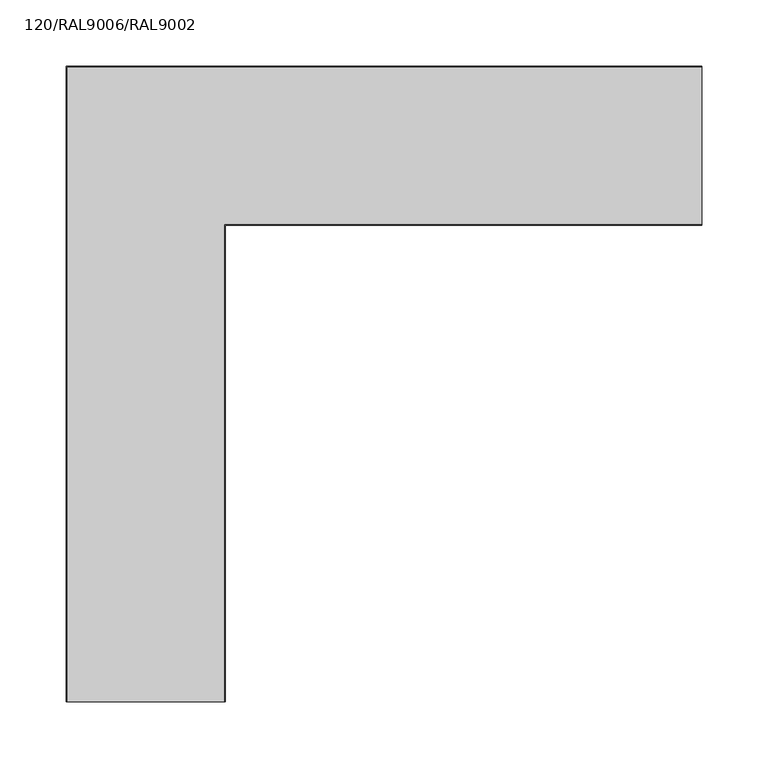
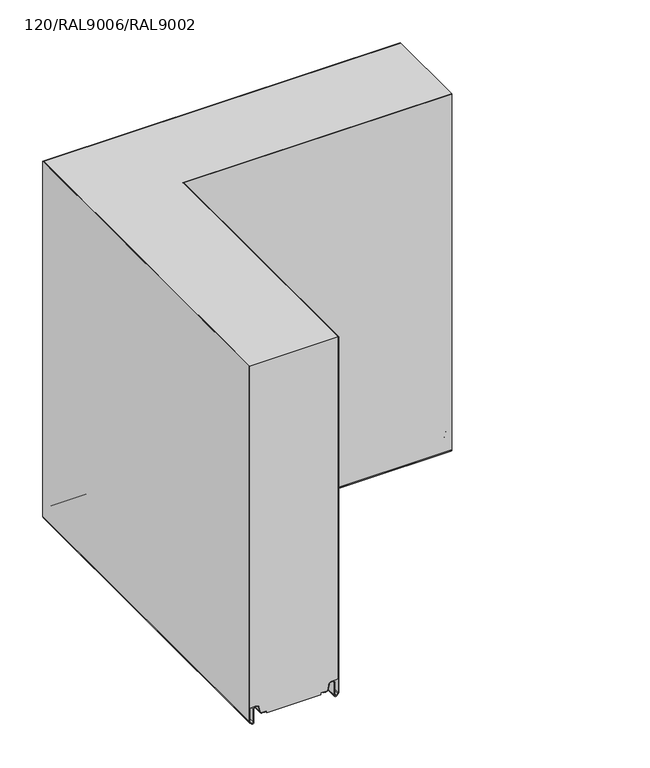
"""IFC4 building model written with IfcOpenShell, lengths in millimetres: plate geometry, TR_C_H_FTV_Corner_Tr_B_cut_GROOVE : 120/RAL9006/RAL9002."""

from ifc_helpers import new_model, si_unit, frame, origin, place, context, project, spatial, polyline, circle_curve, ellipse_curve, source, transform, mapped, element, save
from ifc_brep_helpers import plane_surface, cylinder_surface, revolved_surface, advanced_brep


def plate_120_ral9006_ral9002_2f89b07f(model_context):
    return source(origin(), model_context, "Body", "AdvancedBrep", [
        advanced_brep(
        [(240.0, -119.2, 14.4000012), (240.0, -110.55, 14.4000012), (240.0, -106.364567, 10.8880059), (240.0, -105.2977418, 4.837739), (240.0, -102.3925589, 2.4000012), (240.0, -96.3, 2.4000012), (240.0, -96.3, 0.0), (240.0, -23.7, 0.0), (240.0, -23.7, 2.4000012), (240.0, -17.6074411, 2.4000012), (240.0, -14.7022582, 4.837739), (240.0, -13.635433, 10.8880059), (240.0, -9.45, 14.4000012), (240.0, -0.8, 14.4000012), (240.0, -0.8, 500.0), (240.0, -119.2, 500.0), (-120.8, -119.2, 14.4000012), (-120.8, -480.0, 14.4000012), (-129.45, -480.0, 14.4000012), (-129.45, -110.55, 14.4000012), (-133.635433, -106.364567, 10.8880059), (-134.7022582, -105.2977418, 4.837739), (-137.6074411, -102.3925589, 2.4000012), (-137.6074411, -480.0, 2.4000012), (-143.7, -480.0, 2.4000012), (-143.7, -96.3, 2.4000012), (-143.7, -96.3, 0.0), (-143.7, -480.0, 0.0), (-216.3, -480.0, 0.0), (-216.3, -23.7, 0.0), (-216.3, -23.7, 2.4000012), (-216.3, -480.0, 2.4000012), (-222.3925589, -480.0, 2.4000012), (-222.3925589, -17.6074411, 2.4000012), (-225.2977418, -14.7022582, 4.837739), (-226.364567, -13.635433, 10.8880059), (-230.55, -9.45, 14.4000012), (-230.55, -480.0, 14.4000012), (-239.2, -480.0, 14.4000012), (-239.2, -0.8, 14.4000012), (-120.8, -480.0, 500.0), (-239.2, -480.0, 500.0), (-226.364567, -480.0, 10.8880059), (-225.2977418, -480.0, 4.837739), (-134.7022582, -480.0, 4.837739), (-133.635433, -480.0, 10.8880059), (-239.2, -0.8, 500.0), (-120.8, -119.2, 500.0)],
        [
            (0, 1),
            (1, 2, circle_curve(frame((240.0, -110.55, 10.1500012), z_axis=(-1.0, 0.0, 0.0), x_axis=(0.0, -1.0, 0.0)), 4.25)),
            (2, 3),
            (3, 4, circle_curve(frame((240.0, -102.3925589, 5.3500012), z_axis=(1.0, 0.0, 0.0), x_axis=(0.0, -1.0, 0.0)), 2.95)),
            (4, 5),
            (5, 6),
            (6, 7),
            (7, 8),
            (8, 9),
            (9, 10, circle_curve(frame((240.0, -17.6074411, 5.3500012), z_axis=(1.0, 0.0, 0.0), x_axis=(0.0, -1.0, 0.0)), 2.95)),
            (10, 11),
            (11, 12, circle_curve(frame((240.0, -9.45, 10.1500012), z_axis=(-1.0, 0.0, 0.0), x_axis=(0.0, -1.0, 0.0)), 4.25)),
            (12, 13),
            (13, 14),
            (14, 15),
            (15, 0),
            (0, 16),
            (16, 17),
            (17, 18),
            (18, 19),
            (19, 1),
            (19, 20, ellipse_curve(frame((-129.45, -110.55, 10.1500012), z_axis=(-0.7071067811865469, -0.7071067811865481, 0.0), x_axis=(-0.7071067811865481, 0.7071067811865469, 0.0)), 6.0104076, 4.25)),
            (20, 2),
            (20, 21),
            (21, 3),
            (21, 22, ellipse_curve(frame((-137.6074411, -102.3925589, 5.3500012), z_axis=(0.7071067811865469, 0.7071067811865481, 0.0), x_axis=(0.7071067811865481, -0.7071067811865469, 0.0)), 4.17193, 2.95)),
            (22, 4),
            (22, 23),
            (23, 24),
            (24, 25),
            (25, 5),
            (25, 26),
            (26, 6),
            (26, 27),
            (27, 28),
            (28, 29),
            (29, 7),
            (29, 30),
            (30, 8),
            (30, 31),
            (31, 32),
            (32, 33),
            (33, 9),
            (33, 34, ellipse_curve(frame((-222.3925589, -17.6074411, 5.3500012), z_axis=(0.7071067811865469, 0.7071067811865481, 0.0), x_axis=(0.7071067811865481, -0.7071067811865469, 0.0)), 4.17193, 2.95)),
            (34, 10),
            (34, 35),
            (35, 11),
            (35, 36, ellipse_curve(frame((-230.55, -9.45, 10.1500012), z_axis=(-0.7071067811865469, -0.7071067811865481, 0.0), x_axis=(-0.7071067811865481, 0.7071067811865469, 0.0)), 6.0104076, 4.25)),
            (36, 12),
            (36, 37),
            (37, 38),
            (38, 39),
            (39, 13),
            (17, 40),
            (40, 41),
            (41, 38),
            (37, 42, circle_curve(frame((-230.55, -480.0, 10.1500012), z_axis=(0.0, 1.0, 0.0), x_axis=(1.0, 0.0, 0.0)), 4.25)),
            (42, 43),
            (43, 32, circle_curve(frame((-222.3925589, -480.0, 5.3500012), z_axis=(0.0, -1.0, 0.0), x_axis=(1.0, 0.0, 0.0)), 2.95)),
            (31, 28),
            (27, 24),
            (23, 44, circle_curve(frame((-137.6074411, -480.0, 5.3500012), z_axis=(0.0, -1.0, 0.0), x_axis=(1.0, 0.0, 0.0)), 2.95)),
            (44, 45),
            (45, 18, circle_curve(frame((-129.45, -480.0, 10.1500012), z_axis=(0.0, 1.0, 0.0), x_axis=(1.0, 0.0, 0.0)), 4.25)),
            (45, 20),
            (44, 21),
            (43, 34),
            (42, 35),
            (39, 46),
            (46, 14),
            (15, 47),
            (47, 16),
            (41, 46),
            (47, 40),
        ],
        [
            plane_surface(frame((240.0, 0.0, 0.0), z_axis=(1.0, 0.0, 0.0), x_axis=(0.0, 0.0, 1.0))),
            plane_surface(frame((240.0, -119.2, 14.4000012), z_axis=(0.0, 0.0, -1.0), x_axis=(-1.0, 0.0, 0.0))),
            revolved_surface(polyline([(-133.69999997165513, -114.8, 10.1500012), (240.0, -114.8, 10.1500012)]), (240.0, -110.55, 10.1500012), (-1.0, 0.0, 0.0)),
            plane_surface(frame((240.0, -106.364567, 10.8880059), z_axis=(0.0, -0.9848077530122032, -0.17364817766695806), x_axis=(-1.0, 0.0, 0.0))),
            cylinder_surface(frame((240.0, -102.3925589, 5.3500012), z_axis=(1.0, 0.0, 0.0), x_axis=(0.0, -1.0, 0.0)), 2.95),
            plane_surface(frame((240.0, -102.3925589, 2.4000012), z_axis=(0.0, 0.0, -1.0), x_axis=(-1.0, 0.0, 0.0))),
            plane_surface(frame((240.0, -96.3, 2.4000012), z_axis=(0.0, -1.0, 0.0), x_axis=(-1.0, 0.0, 0.0))),
            plane_surface(frame((240.0, -96.3, 0.0), z_axis=(0.0, 0.0, -1.0), x_axis=(-1.0, 0.0, 0.0))),
            plane_surface(frame((240.0, -23.7, 0.0), z_axis=(0.0, 1.0, 0.0), x_axis=(-1.0, 0.0, 0.0))),
            plane_surface(frame((240.0, -23.7, 2.4000012), z_axis=(0.0, 0.0, -1.0), x_axis=(-1.0, 0.0, 0.0))),
            cylinder_surface(frame((240.0, -17.6074411, 5.3500012), z_axis=(1.0, 0.0, 0.0), x_axis=(0.0, -1.0, 0.0)), 2.95),
            plane_surface(frame((240.0, -14.7022582, 4.837739), z_axis=(0.0, 0.9848077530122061, -0.17364817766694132), x_axis=(-1.0, 0.0, 0.0))),
            revolved_surface(polyline([(-234.79999997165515, -13.7, 10.1500012), (240.0, -13.7, 10.1500012)]), (240.0, -9.45, 10.1500012), (-1.0, 0.0, 0.0)),
            plane_surface(frame((240.0, -9.45, 14.4000012), z_axis=(0.0, 0.0, -1.0), x_axis=(-1.0, 0.0, 0.0))),
            plane_surface(frame((-240.0, -480.0, 0.0), z_axis=(0.0, -1.0, 0.0), x_axis=(0.0, 0.0, 1.0))),
            revolved_surface(polyline([(-125.19999999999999, -480.0, 10.1500012), (-125.19999999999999, -106.30000002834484, 10.1500012)]), (-129.45, 0.0, 10.1500012), (0.0, -1.0, 0.0)),
            plane_surface(frame((-133.635433, -106.364567, 10.8880059), z_axis=(0.9848077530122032, 0.0, -0.17364817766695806), x_axis=(0.0, -1.0, 0.0))),
            cylinder_surface(frame((-137.6074411, 0.0, 5.3500012), z_axis=(0.0, 1.0, 0.0), x_axis=(1.0, 0.0, 0.0)), 2.95),
            plane_surface(frame((-143.7, -96.3, 2.4000012), z_axis=(1.0, 0.0, 0.0), x_axis=(0.0, -1.0, 0.0))),
            plane_surface(frame((-216.3, -23.7, 0.0), z_axis=(-1.0, 0.0, 0.0), x_axis=(0.0, -1.0, 0.0))),
            cylinder_surface(frame((-222.3925589, 0.0, 5.3500012), z_axis=(0.0, 1.0, 0.0), x_axis=(1.0, 0.0, 0.0)), 2.95),
            plane_surface(frame((-225.2977418, -14.7022582, 4.837739), z_axis=(-0.9848077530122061, 0.0, -0.17364817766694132), x_axis=(0.0, -1.0, 0.0))),
            revolved_surface(polyline([(-226.3, -480.0, 10.1500012), (-226.3, -5.200000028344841, 10.1500012)]), (-230.55, 0.0, 10.1500012), (0.0, -1.0, 0.0)),
            plane_surface(frame((240.0, -0.8, 14.4000012), z_axis=(0.0, 1.0, 0.0), x_axis=(-1.0, 0.0, 0.0))),
            plane_surface(frame((240.0, -119.2, 984.3218254), z_axis=(0.0, -1.0, 0.0), x_axis=(-1.0, 0.0, 0.0))),
            plane_surface(frame((-239.2, -0.8, 14.4000012), z_axis=(-1.0, 0.0, 0.0), x_axis=(0.0, -1.0, 0.0))),
            plane_surface(frame((-120.8, -119.2, 984.3218254), z_axis=(1.0, 0.0, 0.0), x_axis=(0.0, -1.0, 0.0))),
            plane_surface(frame((240.0, -120.0, 500.0), z_axis=(0.0, 0.0, 1.0), x_axis=(-1.0, 0.0, 0.0))),
        ],
        [
            (0, [[1, 2, 3, 4, 5, 6, 7, 8, 9, 10, 11, 12, 13, 14, 15, 16]]),
            (1, [[-1, 17, 18, 19, 20, 21]]),
            (2, [[-2, -21, 22, 23]]),
            (3, [[-3, -23, 24, 25]]),
            (4, [[-4, -25, 26, 27]]),
            (5, [[-5, -27, 28, 29, 30, 31]]),
            (6, [[-6, -31, 32, 33]]),
            (7, [[-7, -33, 34, 35, 36, 37]]),
            (8, [[-8, -37, 38, 39]]),
            (9, [[-9, -39, 40, 41, 42, 43]]),
            (10, [[-10, -43, 44, 45]]),
            (11, [[-11, -45, 46, 47]]),
            (12, [[-12, -47, 48, 49]]),
            (13, [[-13, -49, 50, 51, 52, 53]]),
            (14, [[-19, 54, 55, 56, -51, 57, 58, 59, -41, 60, -35, 61, -29, 62, 63, 64]]),
            (15, [[-20, -64, 65, -22]]),
            (16, [[-24, -65, -63, 66]]),
            (17, [[-26, -66, -62, -28]]),
            (18, [[-30, -61, -34, -32]]),
            (19, [[-36, -60, -40, -38]]),
            (20, [[-42, -59, 67, -44]]),
            (21, [[-46, -67, -58, 68]]),
            (22, [[-48, -68, -57, -50]]),
            (23, [[-53, 69, 70, -14]]),
            (24, [[-17, -16, 71, 72]]),
            (25, [[-52, -56, 73, -69]]),
            (26, [[-18, -72, 74, -54]]),
            (27, [[-15, -70, -73, -55, -74, -71]]),
        ],
    ),
        advanced_brep(
        [(240.0, -0.8, -5.018628), (240.0, -1.3711418, -6.3974862), (240.0, -3.2368272, -8.2631716), (240.0, -5.2, -7.4499988), (240.0, -5.2, 10.1500012), (240.0, -13.635433, 10.8880059), (240.0, -14.7022582, 4.837739), (240.0, -17.6074411, 2.4000012), (240.0, -21.0, 2.4000012), (240.0, -21.0, 1.6000012), (240.0, -17.6074411, 1.6000012), (240.0, -13.914412, 4.6988205), (240.0, -12.8475867, 10.7490874), (240.0, -6.0, 10.1500012), (240.0, -6.0, -7.4499988), (240.0, -2.6711418, -8.8288571), (240.0, -0.8054564, -6.9631716), (240.0, 0.0, -5.018628), (240.0, 0.0, 500.0), (240.0, -0.8, 500.0), (-239.2, -0.8, -5.018628), (-238.6288582, -1.3711418, -6.3974862), (-236.7631728, -3.2368272, -8.2631716), (-234.8, -5.2, -7.4499988), (-234.8, -5.2, 10.1500012), (-226.364567, -13.635433, 10.8880059), (-225.2977418, -14.7022582, 4.837739), (-222.3925589, -17.6074411, 2.4000012), (-222.3925589, -480.0, 2.4000012), (-219.0, -480.0, 2.4000012), (-219.0, -21.0, 2.4000012), (-219.0, -21.0, 1.6000012), (-219.0, -480.0, 1.6000012), (-222.3925589, -480.0, 1.6000012), (-222.3925589, -17.6074411, 1.6000012), (-226.085588, -13.914412, 4.6988205), (-227.1524133, -12.8475867, 10.7490874), (-234.0, -6.0, 10.1500012), (-234.0, -6.0, -7.4499988), (-237.3288582, -2.6711418, -8.8288571), (-239.1945436, -0.8054564, -6.9631716), (-240.0, 0.0, -5.018628), (-225.2977418, -480.0, 4.837739), (-226.364567, -480.0, 10.8880059), (-234.8, -480.0, 10.1500012), (-234.8, -480.0, -7.4499988), (-236.7631728, -480.0, -8.2631716), (-238.6288582, -480.0, -6.3974862), (-239.2, -480.0, -5.018628), (-239.2, -480.0, 500.0), (-240.0, -480.0, 500.0), (-240.0, -480.0, -5.018628), (-239.1945436, -480.0, -6.9631716), (-237.3288582, -480.0, -8.8288571), (-234.0, -480.0, -7.4499988), (-234.0, -480.0, 10.1500012), (-227.1524133, -480.0, 10.7490874), (-226.085588, -480.0, 4.6988205), (-240.0, 0.0, 500.0), (-239.2, -0.8, 500.0)],
        [
            (0, 1, circle_curve(frame((240.0, -2.75, -5.018628), z_axis=(-1.0, 0.0, 0.0), x_axis=(0.0, -1.0, 0.0)), 1.95)),
            (1, 2),
            (2, 3, circle_curve(frame((240.0, -4.05, -7.4499988), z_axis=(-1.0, 0.0, 0.0), x_axis=(0.0, -1.0, 0.0)), 1.15)),
            (3, 4),
            (4, 5, circle_curve(frame((240.0, -9.45, 10.1500012), z_axis=(1.0, 0.0, 0.0), x_axis=(0.0, -1.0, 0.0)), 4.25)),
            (5, 6),
            (6, 7, circle_curve(frame((240.0, -17.6074411, 5.3500012), z_axis=(-1.0, 0.0, 0.0), x_axis=(0.0, -1.0, 0.0)), 2.95)),
            (7, 8),
            (8, 9),
            (9, 10),
            (10, 11, circle_curve(frame((240.0, -17.6074411, 5.3500012), z_axis=(1.0, 0.0, 0.0), x_axis=(0.0, -1.0, 0.0)), 3.75)),
            (11, 12),
            (12, 13, circle_curve(frame((240.0, -9.45, 10.1500012), z_axis=(-1.0, 0.0, 0.0), x_axis=(0.0, -1.0, 0.0)), 3.45)),
            (13, 14),
            (14, 15, circle_curve(frame((240.0, -4.05, -7.4499988), z_axis=(1.0, 0.0, 0.0), x_axis=(0.0, -1.0, 0.0)), 1.95)),
            (15, 16),
            (16, 17, circle_curve(frame((240.0, -2.75, -5.018628), z_axis=(1.0, 0.0, 0.0), x_axis=(0.0, -1.0, 0.0)), 2.75)),
            (17, 18),
            (18, 19),
            (19, 0),
            (0, 20),
            (20, 21, ellipse_curve(frame((-237.25, -2.75, -5.018628), z_axis=(-0.7071067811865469, -0.7071067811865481, 0.0), x_axis=(-0.7071067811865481, 0.7071067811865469, 0.0)), 2.7577164, 1.95)),
            (21, 1),
            (21, 22),
            (22, 2),
            (22, 23, ellipse_curve(frame((-235.95, -4.05, -7.4499988), z_axis=(-0.7071067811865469, -0.7071067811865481, 0.0), x_axis=(-0.7071067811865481, 0.7071067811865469, 0.0)), 1.6263456, 1.15)),
            (23, 3),
            (23, 24),
            (24, 4),
            (24, 25, ellipse_curve(frame((-230.55, -9.45, 10.1500012), z_axis=(0.7071067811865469, 0.7071067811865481, 0.0), x_axis=(0.7071067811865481, -0.7071067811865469, 0.0)), 6.0104076, 4.25)),
            (25, 5),
            (25, 26),
            (26, 6),
            (26, 27, ellipse_curve(frame((-222.3925589, -17.6074411, 5.3500012), z_axis=(-0.7071067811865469, -0.7071067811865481, 0.0), x_axis=(-0.7071067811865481, 0.7071067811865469, 0.0)), 4.17193, 2.95)),
            (27, 7),
            (27, 28),
            (28, 29),
            (29, 30),
            (30, 8),
            (30, 31),
            (31, 9),
            (31, 32),
            (32, 33),
            (33, 34),
            (34, 10),
            (34, 35, ellipse_curve(frame((-222.3925589, -17.6074411, 5.3500012), z_axis=(0.7071067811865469, 0.7071067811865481, 0.0), x_axis=(0.7071067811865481, -0.7071067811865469, 0.0)), 5.3033009, 3.75)),
            (35, 11),
            (35, 36),
            (36, 12),
            (36, 37, ellipse_curve(frame((-230.55, -9.45, 10.1500012), z_axis=(-0.7071067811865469, -0.7071067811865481, 0.0), x_axis=(-0.7071067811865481, 0.7071067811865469, 0.0)), 4.8790368, 3.45)),
            (37, 13),
            (37, 38),
            (38, 14),
            (38, 39, ellipse_curve(frame((-235.95, -4.05, -7.4499988), z_axis=(0.7071067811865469, 0.7071067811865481, 0.0), x_axis=(0.7071067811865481, -0.7071067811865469, 0.0)), 2.7577164, 1.95)),
            (39, 15),
            (39, 40),
            (40, 16),
            (40, 41, ellipse_curve(frame((-237.25, -2.75, -5.018628), z_axis=(0.7071067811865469, 0.7071067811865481, 0.0), x_axis=(0.7071067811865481, -0.7071067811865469, 0.0)), 3.8890873, 2.75)),
            (41, 17),
            (28, 42, circle_curve(frame((-222.3925589, -480.0, 5.3500012), z_axis=(0.0, 1.0, 0.0), x_axis=(1.0, 0.0, 0.0)), 2.95)),
            (42, 43),
            (43, 44, circle_curve(frame((-230.55, -480.0, 10.1500012), z_axis=(0.0, -1.0, 0.0), x_axis=(1.0, 0.0, 0.0)), 4.25)),
            (44, 45),
            (45, 46, circle_curve(frame((-235.95, -480.0, -7.4499988), z_axis=(0.0, 1.0, 0.0), x_axis=(1.0, 0.0, 0.0)), 1.15)),
            (46, 47),
            (47, 48, circle_curve(frame((-237.25, -480.0, -5.018628), z_axis=(0.0, 1.0, 0.0), x_axis=(1.0, 0.0, 0.0)), 1.95)),
            (48, 49),
            (49, 50),
            (50, 51),
            (51, 52, circle_curve(frame((-237.25, -480.0, -5.018628), z_axis=(0.0, -1.0, 0.0), x_axis=(1.0, 0.0, 0.0)), 2.75)),
            (52, 53),
            (53, 54, circle_curve(frame((-235.95, -480.0, -7.4499988), z_axis=(0.0, -1.0, 0.0), x_axis=(1.0, 0.0, 0.0)), 1.95)),
            (54, 55),
            (55, 56, circle_curve(frame((-230.55, -480.0, 10.1500012), z_axis=(0.0, 1.0, 0.0), x_axis=(1.0, 0.0, 0.0)), 3.45)),
            (56, 57),
            (57, 33, circle_curve(frame((-222.3925589, -480.0, 5.3500012), z_axis=(0.0, -1.0, 0.0), x_axis=(1.0, 0.0, 0.0)), 3.75)),
            (32, 29),
            (20, 48),
            (47, 21),
            (46, 22),
            (45, 23),
            (44, 24),
            (43, 25),
            (42, 26),
            (57, 35),
            (56, 36),
            (55, 37),
            (54, 38),
            (53, 39),
            (52, 40),
            (51, 41),
            (41, 58),
            (58, 18),
            (19, 59),
            (59, 20),
            (50, 58),
            (59, 49),
        ],
        [
            plane_surface(frame((240.0, 0.0, 0.0), z_axis=(1.0, 0.0, 0.0), x_axis=(0.0, 0.0, 1.0))),
            revolved_surface(polyline([(-239.2, -4.7, -5.018628), (240.0, -4.7, -5.018628)]), (240.0, -2.75, -5.018628), (-1.0, 0.0, 0.0)),
            plane_surface(frame((240.0, -1.3711418, -6.3974862), z_axis=(0.0, -0.7071067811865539, 0.7071067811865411), x_axis=(-1.0, 0.0, 0.0))),
            revolved_surface(polyline([(-237.10000000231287, -5.199999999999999, -7.4499988), (240.0, -5.199999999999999, -7.4499988)]), (240.0, -4.05, -7.4499988), (-1.0, 0.0, 0.0)),
            plane_surface(frame((240.0, -5.2, -7.4499988), z_axis=(0.0, 1.0, 0.0), x_axis=(-1.0, 0.0, 0.0))),
            cylinder_surface(frame((240.0, -9.45, 10.1500012), z_axis=(1.0, 0.0, 0.0), x_axis=(0.0, -1.0, 0.0)), 4.25),
            plane_surface(frame((240.0, -13.635433, 10.8880059), z_axis=(0.0, -0.9848077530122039, 0.17364817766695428), x_axis=(-1.0, 0.0, 0.0))),
            revolved_surface(polyline([(-225.3425588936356, -20.5574411, 5.3500012), (240.0, -20.5574411, 5.3500012)]), (240.0, -17.6074411, 5.3500012), (-1.0, 0.0, 0.0)),
            plane_surface(frame((240.0, -17.6074411, 2.4000012), z_axis=(0.0, 0.0, 1.0), x_axis=(-1.0, 0.0, 0.0))),
            plane_surface(frame((240.0, -21.0, 2.4000012), z_axis=(0.0, -1.0, 0.0), x_axis=(-1.0, 0.0, 0.0))),
            plane_surface(frame((240.0, -21.0, 1.6000012), z_axis=(0.0, 0.0, -1.0), x_axis=(-1.0, 0.0, 0.0))),
            cylinder_surface(frame((240.0, -17.6074411, 5.3500012), z_axis=(1.0, 0.0, 0.0), x_axis=(0.0, -1.0, 0.0)), 3.75),
            plane_surface(frame((240.0, -13.914412, 4.6988205), z_axis=(0.0, 0.9848077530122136, -0.17364817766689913), x_axis=(-1.0, 0.0, 0.0))),
            revolved_surface(polyline([(-234.0000000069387, -12.899999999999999, 10.1500012), (240.0, -12.899999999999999, 10.1500012)]), (240.0, -9.45, 10.1500012), (-1.0, 0.0, 0.0)),
            plane_surface(frame((240.0, -6.0, 10.1500012), z_axis=(0.0, -1.0, 0.0), x_axis=(-1.0, 0.0, 0.0))),
            cylinder_surface(frame((240.0, -4.05, -7.4499988), z_axis=(1.0, 0.0, 0.0), x_axis=(0.0, -1.0, 0.0)), 1.95),
            plane_surface(frame((240.0, -2.6711418, -8.8288571), z_axis=(0.0, 0.7071067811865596, -0.7071067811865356), x_axis=(-1.0, 0.0, 0.0))),
            cylinder_surface(frame((240.0, -2.75, -5.018628), z_axis=(1.0, 0.0, 0.0), x_axis=(0.0, -1.0, 0.0)), 2.75),
            plane_surface(frame((-240.0, -480.0, 0.0), z_axis=(0.0, -1.0, 0.0), x_axis=(0.0, 0.0, 1.0))),
            revolved_surface(polyline([(-235.3, -480.0, -5.018628), (-235.3, -0.8, -5.018628)]), (-237.25, 0.0, -5.018628), (0.0, -1.0, 0.0)),
            plane_surface(frame((-238.6288582, -1.3711418, -6.3974862), z_axis=(0.7071067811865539, 0.0, 0.7071067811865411), x_axis=(0.0, -1.0, 0.0))),
            revolved_surface(polyline([(-234.79999999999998, -480.0, -7.4499988), (-234.79999999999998, -2.8999999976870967, -7.4499988)]), (-235.95, 0.0, -7.4499988), (0.0, -1.0, 0.0)),
            plane_surface(frame((-234.8, -5.2, -7.4499988), z_axis=(-1.0, 0.0, 0.0), x_axis=(0.0, -1.0, 0.0))),
            cylinder_surface(frame((-230.55, 0.0, 10.1500012), z_axis=(0.0, 1.0, 0.0), x_axis=(1.0, 0.0, 0.0)), 4.25),
            plane_surface(frame((-226.364567, -13.635433, 10.8880059), z_axis=(0.9848077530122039, 0.0, 0.17364817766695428), x_axis=(0.0, -1.0, 0.0))),
            revolved_surface(polyline([(-219.44255890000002, -480.0, 5.3500012), (-219.44255890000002, -14.65744110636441, 5.3500012)]), (-222.3925589, 0.0, 5.3500012), (0.0, -1.0, 0.0)),
            plane_surface(frame((-219.0, -21.0, 2.4000012), z_axis=(1.0, 0.0, 0.0), x_axis=(0.0, -1.0, 0.0))),
            cylinder_surface(frame((-222.3925589, 0.0, 5.3500012), z_axis=(0.0, 1.0, 0.0), x_axis=(1.0, 0.0, 0.0)), 3.75),
            plane_surface(frame((-226.085588, -13.914412, 4.6988205), z_axis=(-0.9848077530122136, 0.0, -0.17364817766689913), x_axis=(0.0, -1.0, 0.0))),
            revolved_surface(polyline([(-227.10000000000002, -480.0, 10.1500012), (-227.10000000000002, -5.999999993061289, 10.1500012)]), (-230.55, 0.0, 10.1500012), (0.0, -1.0, 0.0)),
            plane_surface(frame((-234.0, -6.0, 10.1500012), z_axis=(1.0, 0.0, 0.0), x_axis=(0.0, -1.0, 0.0))),
            cylinder_surface(frame((-235.95, 0.0, -7.4499988), z_axis=(0.0, 1.0, 0.0), x_axis=(1.0, 0.0, 0.0)), 1.95),
            plane_surface(frame((-237.3288582, -2.6711418, -8.8288571), z_axis=(-0.7071067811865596, 0.0, -0.7071067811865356), x_axis=(0.0, -1.0, 0.0))),
            cylinder_surface(frame((-237.25, 0.0, -5.018628), z_axis=(0.0, 1.0, 0.0), x_axis=(1.0, 0.0, 0.0)), 2.75),
            plane_surface(frame((240.0, 0.0, -5.018628), z_axis=(0.0, 1.0, 0.0), x_axis=(-1.0, 0.0, 0.0))),
            plane_surface(frame((240.0, -0.8, 984.3218254), z_axis=(0.0, -1.0, 0.0), x_axis=(-1.0, 0.0, 0.0))),
            plane_surface(frame((-240.0, 0.0, -5.018628), z_axis=(-1.0, 0.0, 0.0), x_axis=(0.0, -1.0, 0.0))),
            plane_surface(frame((-239.2, -0.8, 984.3218254), z_axis=(1.0, 0.0, 0.0), x_axis=(0.0, -1.0, 0.0))),
            plane_surface(frame((240.0, -120.0, 500.0), z_axis=(0.0, 0.0, 1.0), x_axis=(-1.0, 0.0, 0.0))),
        ],
        [
            (0, [[1, 2, 3, 4, 5, 6, 7, 8, 9, 10, 11, 12, 13, 14, 15, 16, 17, 18, 19, 20]]),
            (1, [[-1, 21, 22, 23]]),
            (2, [[-2, -23, 24, 25]]),
            (3, [[-3, -25, 26, 27]]),
            (4, [[-4, -27, 28, 29]]),
            (5, [[-5, -29, 30, 31]]),
            (6, [[-6, -31, 32, 33]]),
            (7, [[-7, -33, 34, 35]]),
            (8, [[-8, -35, 36, 37, 38, 39]]),
            (9, [[-9, -39, 40, 41]]),
            (10, [[-10, -41, 42, 43, 44, 45]]),
            (11, [[-11, -45, 46, 47]]),
            (12, [[-12, -47, 48, 49]]),
            (13, [[-13, -49, 50, 51]]),
            (14, [[-14, -51, 52, 53]]),
            (15, [[-15, -53, 54, 55]]),
            (16, [[-16, -55, 56, 57]]),
            (17, [[-17, -57, 58, 59]]),
            (18, [[-37, 60, 61, 62, 63, 64, 65, 66, 67, 68, 69, 70, 71, 72, 73, 74, 75, 76, -43, 77]]),
            (19, [[-22, 78, -66, 79]]),
            (20, [[-24, -79, -65, 80]]),
            (21, [[-26, -80, -64, 81]]),
            (22, [[-28, -81, -63, 82]]),
            (23, [[-30, -82, -62, 83]]),
            (24, [[-32, -83, -61, 84]]),
            (25, [[-34, -84, -60, -36]]),
            (26, [[-38, -77, -42, -40]]),
            (27, [[-44, -76, 85, -46]]),
            (28, [[-48, -85, -75, 86]]),
            (29, [[-50, -86, -74, 87]]),
            (30, [[-52, -87, -73, 88]]),
            (31, [[-54, -88, -72, 89]]),
            (32, [[-56, -89, -71, 90]]),
            (33, [[-58, -90, -70, 91]]),
            (34, [[-59, 92, 93, -18]]),
            (35, [[-21, -20, 94, 95]]),
            (36, [[-91, -69, 96, -92]]),
            (37, [[-78, -95, 97, -67]]),
            (38, [[-19, -93, -96, -68, -97, -94]]),
        ],
    ),
        advanced_brep(
        [(240.0, -120.0, -5.018628), (240.0, -119.1945436, -6.9631716), (240.0, -117.3288582, -8.8288571), (240.0, -114.0, -7.4499988), (240.0, -114.0, 10.1500012), (240.0, -107.1524133, 10.7490874), (240.0, -106.085588, 4.6988205), (240.0, -102.3925589, 1.6000012), (240.0, -99.0, 1.6000012), (240.0, -99.0, 2.4000012), (240.0, -102.3925589, 2.4000012), (240.0, -105.2977418, 4.837739), (240.0, -106.364567, 10.8880059), (240.0, -114.8, 10.1500012), (240.0, -114.8, -7.4499988), (240.0, -116.7631728, -8.2631716), (240.0, -118.6288582, -6.3974862), (240.0, -119.2, -5.018628), (240.0, -119.2, 500.0), (240.0, -120.0, 500.0), (-120.0, -120.0, -5.018628), (-120.8054564, -119.1945436, -6.9631716), (-122.6711418, -117.3288582, -8.8288571), (-126.0, -114.0, -7.4499988), (-126.0, -114.0, 10.1500012), (-132.8475867, -107.1524133, 10.7490874), (-133.914412, -106.085588, 4.6988205), (-137.6074411, -102.3925589, 1.6000012), (-137.6074411, -480.0, 1.6000012), (-141.0, -480.0, 1.6000012), (-141.0, -99.0, 1.6000012), (-141.0, -99.0, 2.4000012), (-141.0, -480.0, 2.4000012), (-137.6074411, -480.0, 2.4000012), (-137.6074411, -102.3925589, 2.4000012), (-134.7022582, -105.2977418, 4.837739), (-133.635433, -106.364567, 10.8880059), (-125.2, -114.8, 10.1500012), (-125.2, -114.8, -7.4499988), (-123.2368272, -116.7631728, -8.2631716), (-121.3711418, -118.6288582, -6.3974862), (-120.8, -119.2, -5.018628), (-133.914412, -480.0, 4.6988205), (-132.8475867, -480.0, 10.7490874), (-126.0, -480.0, 10.1500012), (-126.0, -480.0, -7.4499988), (-122.6711418, -480.0, -8.8288571), (-120.8054564, -480.0, -6.9631716), (-120.0, -480.0, -5.018628), (-120.0, -480.0, 500.0), (-120.8, -480.0, 500.0), (-120.8, -480.0, -5.018628), (-121.3711418, -480.0, -6.3974862), (-123.2368272, -480.0, -8.2631716), (-125.2, -480.0, -7.4499988), (-125.2, -480.0, 10.1500012), (-133.635433, -480.0, 10.8880059), (-134.7022582, -480.0, 4.837739), (-120.8, -119.2, 500.0), (-120.0, -120.0, 500.0)],
        [
            (0, 1, circle_curve(frame((240.0, -117.25, -5.018628), z_axis=(1.0, 0.0, 0.0), x_axis=(0.0, -1.0, 0.0)), 2.75)),
            (1, 2),
            (2, 3, circle_curve(frame((240.0, -115.95, -7.4499988), z_axis=(1.0, 0.0, 0.0), x_axis=(0.0, -1.0, 0.0)), 1.95)),
            (3, 4),
            (4, 5, circle_curve(frame((240.0, -110.55, 10.1500012), z_axis=(-1.0, 0.0, 0.0), x_axis=(0.0, -1.0, 0.0)), 3.45)),
            (5, 6),
            (6, 7, circle_curve(frame((240.0, -102.3925589, 5.3500012), z_axis=(1.0, 0.0, 0.0), x_axis=(0.0, -1.0, 0.0)), 3.75)),
            (7, 8),
            (8, 9),
            (9, 10),
            (10, 11, circle_curve(frame((240.0, -102.3925589, 5.3500012), z_axis=(-1.0, 0.0, 0.0), x_axis=(0.0, -1.0, 0.0)), 2.95)),
            (11, 12),
            (12, 13, circle_curve(frame((240.0, -110.55, 10.1500012), z_axis=(1.0, 0.0, 0.0), x_axis=(0.0, -1.0, 0.0)), 4.25)),
            (13, 14),
            (14, 15, circle_curve(frame((240.0, -115.95, -7.4499988), z_axis=(-1.0, 0.0, 0.0), x_axis=(0.0, -1.0, 0.0)), 1.15)),
            (15, 16),
            (16, 17, circle_curve(frame((240.0, -117.25, -5.018628), z_axis=(-1.0, 0.0, 0.0), x_axis=(0.0, -1.0, 0.0)), 1.95)),
            (17, 18),
            (18, 19),
            (19, 0),
            (0, 20),
            (20, 21, ellipse_curve(frame((-122.75, -117.25, -5.018628), z_axis=(0.7071067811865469, 0.7071067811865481, 0.0), x_axis=(0.7071067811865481, -0.7071067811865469, 0.0)), 3.8890873, 2.75)),
            (21, 1),
            (21, 22),
            (22, 2),
            (22, 23, ellipse_curve(frame((-124.05, -115.95, -7.4499988), z_axis=(0.7071067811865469, 0.7071067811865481, 0.0), x_axis=(0.7071067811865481, -0.7071067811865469, 0.0)), 2.7577164, 1.95)),
            (23, 3),
            (23, 24),
            (24, 4),
            (24, 25, ellipse_curve(frame((-129.45, -110.55, 10.1500012), z_axis=(-0.7071067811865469, -0.7071067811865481, 0.0), x_axis=(-0.7071067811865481, 0.7071067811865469, 0.0)), 4.8790368, 3.45)),
            (25, 5),
            (25, 26),
            (26, 6),
            (26, 27, ellipse_curve(frame((-137.6074411, -102.3925589, 5.3500012), z_axis=(0.7071067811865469, 0.7071067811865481, 0.0), x_axis=(0.7071067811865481, -0.7071067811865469, 0.0)), 5.3033009, 3.75)),
            (27, 7),
            (27, 28),
            (28, 29),
            (29, 30),
            (30, 8),
            (30, 31),
            (31, 9),
            (31, 32),
            (32, 33),
            (33, 34),
            (34, 10),
            (34, 35, ellipse_curve(frame((-137.6074411, -102.3925589, 5.3500012), z_axis=(-0.7071067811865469, -0.7071067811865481, 0.0), x_axis=(-0.7071067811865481, 0.7071067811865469, 0.0)), 4.17193, 2.95)),
            (35, 11),
            (35, 36),
            (36, 12),
            (36, 37, ellipse_curve(frame((-129.45, -110.55, 10.1500012), z_axis=(0.7071067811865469, 0.7071067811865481, 0.0), x_axis=(0.7071067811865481, -0.7071067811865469, 0.0)), 6.0104076, 4.25)),
            (37, 13),
            (37, 38),
            (38, 14),
            (38, 39, ellipse_curve(frame((-124.05, -115.95, -7.4499988), z_axis=(-0.7071067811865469, -0.7071067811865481, 0.0), x_axis=(-0.7071067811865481, 0.7071067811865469, 0.0)), 1.6263456, 1.15)),
            (39, 15),
            (39, 40),
            (40, 16),
            (40, 41, ellipse_curve(frame((-122.75, -117.25, -5.018628), z_axis=(-0.7071067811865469, -0.7071067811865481, 0.0), x_axis=(-0.7071067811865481, 0.7071067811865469, 0.0)), 2.7577164, 1.95)),
            (41, 17),
            (28, 42, circle_curve(frame((-137.6074411, -480.0, 5.3500012), z_axis=(0.0, -1.0, 0.0), x_axis=(1.0, 0.0, 0.0)), 3.75)),
            (42, 43),
            (43, 44, circle_curve(frame((-129.45, -480.0, 10.1500012), z_axis=(0.0, 1.0, 0.0), x_axis=(1.0, 0.0, 0.0)), 3.45)),
            (44, 45),
            (45, 46, circle_curve(frame((-124.05, -480.0, -7.4499988), z_axis=(0.0, -1.0, 0.0), x_axis=(1.0, 0.0, 0.0)), 1.95)),
            (46, 47),
            (47, 48, circle_curve(frame((-122.75, -480.0, -5.018628), z_axis=(0.0, -1.0, 0.0), x_axis=(1.0, 0.0, 0.0)), 2.75)),
            (48, 49),
            (49, 50),
            (50, 51),
            (51, 52, circle_curve(frame((-122.75, -480.0, -5.018628), z_axis=(0.0, 1.0, 0.0), x_axis=(1.0, 0.0, 0.0)), 1.95)),
            (52, 53),
            (53, 54, circle_curve(frame((-124.05, -480.0, -7.4499988), z_axis=(0.0, 1.0, 0.0), x_axis=(1.0, 0.0, 0.0)), 1.15)),
            (54, 55),
            (55, 56, circle_curve(frame((-129.45, -480.0, 10.1500012), z_axis=(0.0, -1.0, 0.0), x_axis=(1.0, 0.0, 0.0)), 4.25)),
            (56, 57),
            (57, 33, circle_curve(frame((-137.6074411, -480.0, 5.3500012), z_axis=(0.0, 1.0, 0.0), x_axis=(1.0, 0.0, 0.0)), 2.95)),
            (32, 29),
            (20, 48),
            (47, 21),
            (46, 22),
            (45, 23),
            (44, 24),
            (43, 25),
            (42, 26),
            (57, 35),
            (56, 36),
            (55, 37),
            (54, 38),
            (53, 39),
            (52, 40),
            (51, 41),
            (41, 58),
            (58, 18),
            (19, 59),
            (59, 20),
            (50, 58),
            (59, 49),
        ],
        [
            plane_surface(frame((240.0, 0.0, 0.0), z_axis=(1.0, 0.0, 0.0), x_axis=(0.0, 0.0, 1.0))),
            cylinder_surface(frame((240.0, -117.25, -5.018628), z_axis=(1.0, 0.0, 0.0), x_axis=(0.0, -1.0, 0.0)), 2.75),
            plane_surface(frame((240.0, -119.1945436, -6.9631716), z_axis=(0.0, -0.7071067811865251, -0.70710678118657), x_axis=(-1.0, 0.0, 0.0))),
            cylinder_surface(frame((240.0, -115.95, -7.4499988), z_axis=(1.0, 0.0, 0.0), x_axis=(0.0, -1.0, 0.0)), 1.95),
            plane_surface(frame((240.0, -114.0, -7.4499988), z_axis=(0.0, 1.0, 0.0), x_axis=(-1.0, 0.0, 0.0))),
            revolved_surface(polyline([(-132.90000000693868, -114.0, 10.1500012), (240.0, -114.0, 10.1500012)]), (240.0, -110.55, 10.1500012), (-1.0, 0.0, 0.0)),
            plane_surface(frame((240.0, -107.1524133, 10.7490874), z_axis=(0.0, -0.9848077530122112, -0.1736481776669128), x_axis=(-1.0, 0.0, 0.0))),
            cylinder_surface(frame((240.0, -102.3925589, 5.3500012), z_axis=(1.0, 0.0, 0.0), x_axis=(0.0, -1.0, 0.0)), 3.75),
            plane_surface(frame((240.0, -102.3925589, 1.6000012), z_axis=(0.0, 0.0, -1.0), x_axis=(-1.0, 0.0, 0.0))),
            plane_surface(frame((240.0, -99.0, 1.6000012), z_axis=(0.0, 1.0, 0.0), x_axis=(-1.0, 0.0, 0.0))),
            plane_surface(frame((240.0, -99.0, 2.4000012), z_axis=(0.0, 0.0, 1.0), x_axis=(-1.0, 0.0, 0.0))),
            revolved_surface(polyline([(-140.55744109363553, -105.3425589, 5.3500012), (240.0, -105.3425589, 5.3500012)]), (240.0, -102.3925589, 5.3500012), (-1.0, 0.0, 0.0)),
            plane_surface(frame((240.0, -105.2977418, 4.837739), z_axis=(0.0, 0.9848077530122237, 0.17364817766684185), x_axis=(-1.0, 0.0, 0.0))),
            cylinder_surface(frame((240.0, -110.55, 10.1500012), z_axis=(1.0, 0.0, 0.0), x_axis=(0.0, -1.0, 0.0)), 4.25),
            plane_surface(frame((240.0, -114.8, 10.1500012), z_axis=(0.0, -1.0, 0.0), x_axis=(-1.0, 0.0, 0.0))),
            revolved_surface(polyline([(-125.20000000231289, -117.10000000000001, -7.4499988), (240.0, -117.10000000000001, -7.4499988)]), (240.0, -115.95, -7.4499988), (-1.0, 0.0, 0.0)),
            plane_surface(frame((240.0, -116.7631728, -8.2631716), z_axis=(0.0, 0.7071067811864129, 0.7071067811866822), x_axis=(-1.0, 0.0, 0.0))),
            revolved_surface(polyline([(-124.69999996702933, -119.2, -5.018628), (240.0, -119.2, -5.018628)]), (240.0, -117.25, -5.018628), (-1.0, 0.0, 0.0)),
            plane_surface(frame((-240.0, -480.0, 0.0), z_axis=(0.0, -1.0, 0.0), x_axis=(0.0, 0.0, 1.0))),
            cylinder_surface(frame((-122.75, 0.0, -5.018628), z_axis=(0.0, 1.0, 0.0), x_axis=(1.0, 0.0, 0.0)), 2.75),
            plane_surface(frame((-120.8054564, -119.1945436, -6.9631716), z_axis=(0.7071067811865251, 0.0, -0.70710678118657), x_axis=(0.0, -1.0, 0.0))),
            cylinder_surface(frame((-124.05, 0.0, -7.4499988), z_axis=(0.0, 1.0, 0.0), x_axis=(1.0, 0.0, 0.0)), 1.95),
            plane_surface(frame((-126.0, -114.0, -7.4499988), z_axis=(-1.0, 0.0, 0.0), x_axis=(0.0, -1.0, 0.0))),
            revolved_surface(polyline([(-125.99999999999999, -480.0, 10.1500012), (-125.99999999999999, -107.09999999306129, 10.1500012)]), (-129.45, 0.0, 10.1500012), (0.0, -1.0, 0.0)),
            plane_surface(frame((-132.8475867, -107.1524133, 10.7490874), z_axis=(0.9848077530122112, 0.0, -0.1736481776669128), x_axis=(0.0, -1.0, 0.0))),
            cylinder_surface(frame((-137.6074411, 0.0, 5.3500012), z_axis=(0.0, 1.0, 0.0), x_axis=(1.0, 0.0, 0.0)), 3.75),
            plane_surface(frame((-141.0, -99.0, 1.6000012), z_axis=(-1.0, 0.0, 0.0), x_axis=(0.0, -1.0, 0.0))),
            revolved_surface(polyline([(-134.6574411, -480.0, 5.3500012), (-134.6574411, -99.44255890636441, 5.3500012)]), (-137.6074411, 0.0, 5.3500012), (0.0, -1.0, 0.0)),
            plane_surface(frame((-134.7022582, -105.2977418, 4.837739), z_axis=(-0.9848077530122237, 0.0, 0.17364817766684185), x_axis=(0.0, -1.0, 0.0))),
            cylinder_surface(frame((-129.45, 0.0, 10.1500012), z_axis=(0.0, 1.0, 0.0), x_axis=(1.0, 0.0, 0.0)), 4.25),
            plane_surface(frame((-125.2, -114.8, 10.1500012), z_axis=(1.0, 0.0, 0.0), x_axis=(0.0, -1.0, 0.0))),
            revolved_surface(polyline([(-122.89999999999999, -480.0, -7.4499988), (-122.89999999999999, -114.7999999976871, -7.4499988)]), (-124.05, 0.0, -7.4499988), (0.0, -1.0, 0.0)),
            plane_surface(frame((-123.2368272, -116.7631728, -8.2631716), z_axis=(-0.7071067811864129, 0.0, 0.7071067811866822), x_axis=(0.0, -1.0, 0.0))),
            revolved_surface(polyline([(-120.8, -480.0, -5.018628), (-120.8, -115.30000003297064, -5.018628)]), (-122.75, 0.0, -5.018628), (0.0, -1.0, 0.0)),
            plane_surface(frame((240.0, -119.2, -5.018628), z_axis=(0.0, 1.0, 0.0), x_axis=(-1.0, 0.0, 0.0))),
            plane_surface(frame((240.0, -120.0, 984.3218254), z_axis=(0.0, -1.0, 0.0), x_axis=(-1.0, 0.0, 0.0))),
            plane_surface(frame((-120.8, -119.2, -5.018628), z_axis=(-1.0, 0.0, 0.0), x_axis=(0.0, -1.0, 0.0))),
            plane_surface(frame((-120.0, -120.0, 984.3218254), z_axis=(1.0, 0.0, 0.0), x_axis=(0.0, -1.0, 0.0))),
            plane_surface(frame((240.0, -120.0, 500.0), z_axis=(0.0, 0.0, 1.0), x_axis=(-1.0, 0.0, 0.0))),
        ],
        [
            (0, [[1, 2, 3, 4, 5, 6, 7, 8, 9, 10, 11, 12, 13, 14, 15, 16, 17, 18, 19, 20]]),
            (1, [[-1, 21, 22, 23]]),
            (2, [[-2, -23, 24, 25]]),
            (3, [[-3, -25, 26, 27]]),
            (4, [[-4, -27, 28, 29]]),
            (5, [[-5, -29, 30, 31]]),
            (6, [[-6, -31, 32, 33]]),
            (7, [[-7, -33, 34, 35]]),
            (8, [[-8, -35, 36, 37, 38, 39]]),
            (9, [[-9, -39, 40, 41]]),
            (10, [[-10, -41, 42, 43, 44, 45]]),
            (11, [[-11, -45, 46, 47]]),
            (12, [[-12, -47, 48, 49]]),
            (13, [[-13, -49, 50, 51]]),
            (14, [[-14, -51, 52, 53]]),
            (15, [[-15, -53, 54, 55]]),
            (16, [[-16, -55, 56, 57]]),
            (17, [[-17, -57, 58, 59]]),
            (18, [[-37, 60, 61, 62, 63, 64, 65, 66, 67, 68, 69, 70, 71, 72, 73, 74, 75, 76, -43, 77]]),
            (19, [[-22, 78, -66, 79]]),
            (20, [[-24, -79, -65, 80]]),
            (21, [[-26, -80, -64, 81]]),
            (22, [[-28, -81, -63, 82]]),
            (23, [[-30, -82, -62, 83]]),
            (24, [[-32, -83, -61, 84]]),
            (25, [[-34, -84, -60, -36]]),
            (26, [[-38, -77, -42, -40]]),
            (27, [[-44, -76, 85, -46]]),
            (28, [[-48, -85, -75, 86]]),
            (29, [[-50, -86, -74, 87]]),
            (30, [[-52, -87, -73, 88]]),
            (31, [[-54, -88, -72, 89]]),
            (32, [[-56, -89, -71, 90]]),
            (33, [[-58, -90, -70, 91]]),
            (34, [[-59, 92, 93, -18]]),
            (35, [[-21, -20, 94, 95]]),
            (36, [[-91, -69, 96, -92]]),
            (37, [[-78, -95, 97, -67]]),
            (38, [[-19, -93, -96, -68, -97, -94]]),
        ],
    ),
    ])


if __name__ == "__main__":
    model = new_model("IFC4")
    model_context = context("Model", 3, world=origin())
    ifc_project = project(units=[si_unit("LENGTHUNIT", "METRE", prefix="MILLI")], contexts=[model_context])
    site = spatial("IfcSite", under=ifc_project)
    building = spatial("IfcBuilding", under=site)
    placement = place(None, origin())
    plate_120_ral9006_ral9002_shape = plate_120_ral9006_ral9002_2f89b07f(model_context)
    element("IfcPlate", 1, ObjectType="TR_C_H_FTV_Corner_Tr_B_cut_GROOVE : 120/RAL9006/RAL9002", at=placement, inside=building, context=model_context, shape_type="MappedRepresentation", body=[
        mapped(plate_120_ral9006_ral9002_shape, transform((0.0, 0.0, 0.0), x_axis=(1.0, 0.0, 0.0), y_axis=(0.0, 1.0, 0.0), z_axis=(0.0, 0.0, 1.0))),
    ])
    save(model, "model.ifc")
